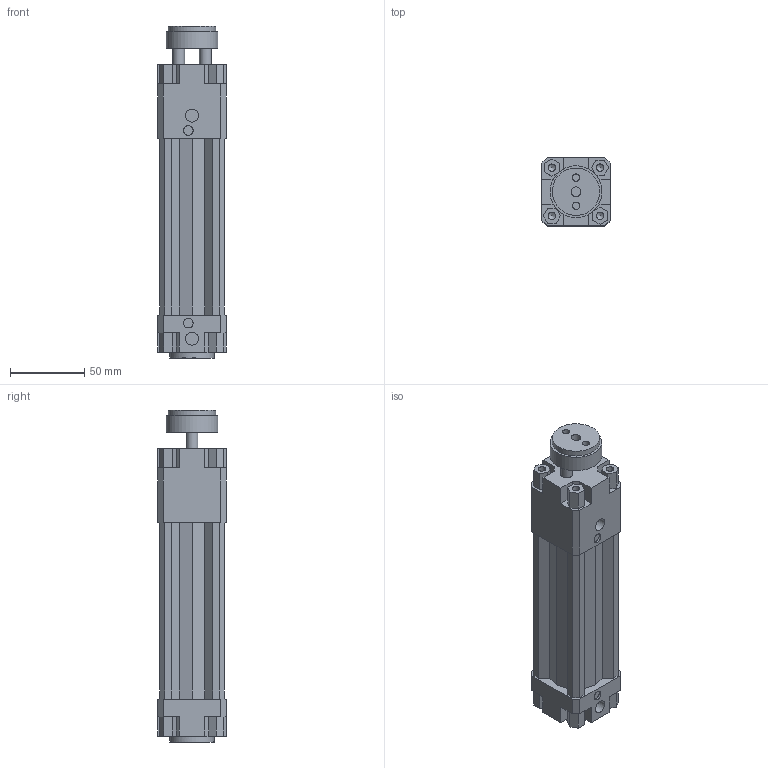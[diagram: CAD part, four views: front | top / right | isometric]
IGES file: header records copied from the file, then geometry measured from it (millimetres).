
Global section: file name: 134#_032_0075_01; native system: Autodesk Inventor 2014; preprocessor: unknown; author: A. Manieri; date: 20161006.164205; units: millimetre
Bounding box: 46 x 46 x 224 mm (x, y, z)
Volume: 278885.7 mm3; surface area: 80368.2 mm2
Topology: 2 solids, 2 shells, 187 faces, 507 edges, 343 vertices
Faces by surface type: bspline 187
